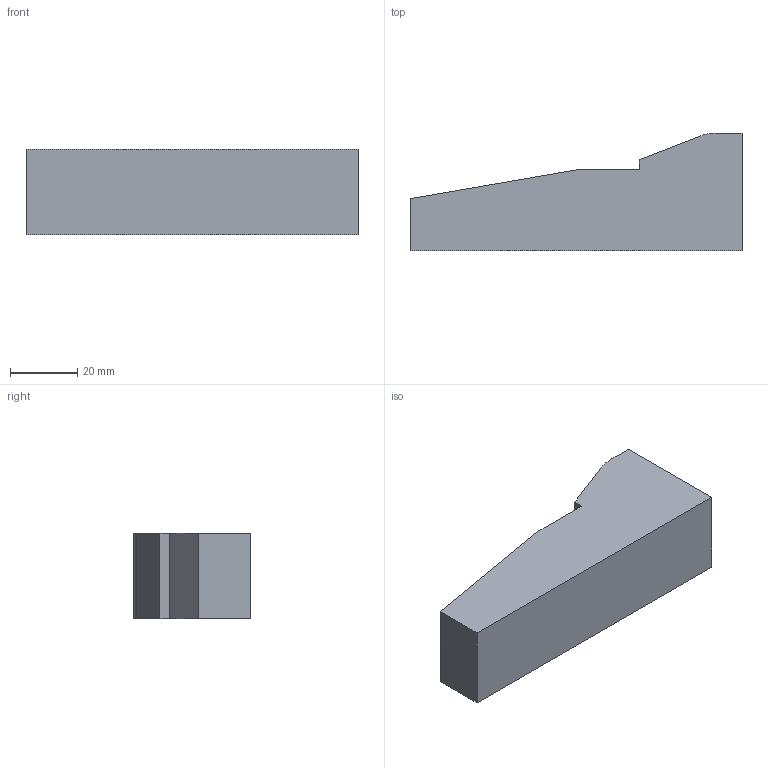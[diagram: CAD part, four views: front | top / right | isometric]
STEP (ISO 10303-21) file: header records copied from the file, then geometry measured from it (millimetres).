
FILE_DESCRIPTION (( 'STEP AP203' ), '1' );
FILE_NAME ('AB68-3FJ.STEP', '2023-08-25T14:11:34', ( '' ), ( '' ), 'SwSTEP 2.0', 'SolidWorks 2020', '' );
FILE_SCHEMA (( 'CONFIG_CONTROL_DESIGN' ));
Length unit declared in the file: inch
Products named in the file (1): AB68-3FJ
Bounding box: 98.42 x 34.92 x 25.4 mm (x, y, z)
Volume: 61070.5 mm3; surface area: 11218.4 mm2
Topology: 1 solids, 1 shells, 12 faces, 30 edges, 20 vertices
Faces by surface type: plane 10, cylinder 2
Entity records: 437 total; most frequent: CARTESIAN_POINT 63, ORIENTED_EDGE 60, DIRECTION 60, EDGE_CURVE 30, VECTOR 26, LINE 26, VERTEX_POINT 20, AXIS2_PLACEMENT_3D 17
